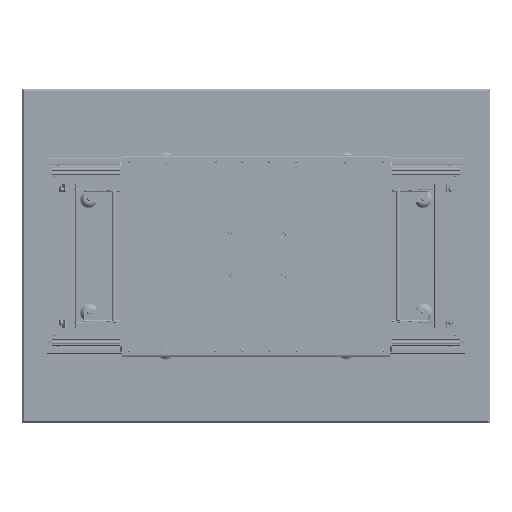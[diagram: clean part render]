
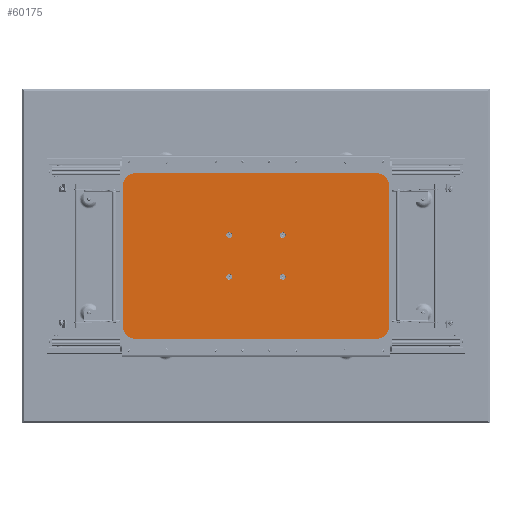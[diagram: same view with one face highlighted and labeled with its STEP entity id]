
A CAD part, front view. The second image highlights one B-rep face of the part: STEP entity #60175.
In plain terms, the highlighted planar face has unit normal (0, -1, 0).
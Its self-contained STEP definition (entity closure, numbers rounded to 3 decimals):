
#494 = ORIENTED_EDGE ( 'NONE', *, *, #43207, .T. ) ;
#1311 = DIRECTION ( 'NONE',  ( 0., 0., -1. ) ) ;
#1543 = ORIENTED_EDGE ( 'NONE', *, *, #27678, .F. ) ;
#2106 = CARTESIAN_POINT ( 'NONE',  ( 362.5, 0., -212.5 ) ) ;
#2453 = DIRECTION ( 'NONE',  ( 0., 0., 1. ) ) ;
#2471 = VERTEX_POINT ( 'NONE', #21394 ) ;
#2791 = DIRECTION ( 'NONE',  ( 0., -1., 0. ) ) ;
#4539 = EDGE_CURVE ( 'NONE', #6579, #50818, #21744, .T. ) ;
#4633 = AXIS2_PLACEMENT_3D ( 'NONE', #9415, #38254, #61198 ) ;
#4833 = ORIENTED_EDGE ( 'NONE', *, *, #10061, .F. ) ;
#5403 = EDGE_CURVE ( 'NONE', #71874, #70016, #17973, .T. ) ;
#6391 = ORIENTED_EDGE ( 'NONE', *, *, #32207, .T. ) ;
#6579 = VERTEX_POINT ( 'NONE', #16060 ) ;
#7168 = CARTESIAN_POINT ( 'NONE',  ( 397.5, 0., -247.5 ) ) ;
#8785 = AXIS2_PLACEMENT_3D ( 'NONE', #43391, #65981, #37865 ) ;
#9415 = CARTESIAN_POINT ( 'NONE',  ( -80., 0., -62.5 ) ) ;
#10061 = EDGE_CURVE ( 'NONE', #33927, #19993, #64924, .T. ) ;
#10460 = CARTESIAN_POINT ( 'NONE',  ( 80., 0., 53.85 ) ) ;
#11930 = DIRECTION ( 'NONE',  ( 0., 0., 1. ) ) ;
#12033 = DIRECTION ( 'NONE',  ( 0., -1., 0. ) ) ;
#12503 = VERTEX_POINT ( 'NONE', #21781 ) ;
#12919 = FACE_BOUND ( 'NONE', #16339, .T. ) ;
#12970 = VERTEX_POINT ( 'NONE', #70108 ) ;
#14174 = CIRCLE ( 'NONE', #37914, 35. ) ;
#14717 = CIRCLE ( 'NONE', #54875, 8.65 ) ;
#14929 = ORIENTED_EDGE ( 'NONE', *, *, #47578, .F. ) ;
#14969 = AXIS2_PLACEMENT_3D ( 'NONE', #2106, #47234, #64279 ) ;
#15047 = EDGE_CURVE ( 'NONE', #22058, #47762, #50971, .T. ) ;
#16060 = CARTESIAN_POINT ( 'NONE',  ( -362.5, 0., 247.5 ) ) ;
#16339 = EDGE_LOOP ( 'NONE', ( #49925, #14929 ) ) ;
#16633 = ORIENTED_EDGE ( 'NONE', *, *, #18231, .F. ) ;
#17141 = CARTESIAN_POINT ( 'NONE',  ( -80., 0., 53.85 ) ) ;
#17973 = CIRCLE ( 'NONE', #53366, 8.65 ) ;
#18104 = CIRCLE ( 'NONE', #35737, 8.65 ) ;
#18231 = EDGE_CURVE ( 'NONE', #70016, #71874, #18104, .T. ) ;
#19993 = VERTEX_POINT ( 'NONE', #57801 ) ;
#20838 = DIRECTION ( 'NONE',  ( 0., 0., -1. ) ) ;
#21394 = CARTESIAN_POINT ( 'NONE',  ( -80., 0., 71.15 ) ) ;
#21744 = LINE ( 'NONE', #22833, #60267 ) ;
#21781 = CARTESIAN_POINT ( 'NONE',  ( 362.5, 0., -247.5 ) ) ;
#22058 = VERTEX_POINT ( 'NONE', #58830 ) ;
#22396 = CARTESIAN_POINT ( 'NONE',  ( -80., 0., 62.5 ) ) ;
#22833 = CARTESIAN_POINT ( 'NONE',  ( -397.5, 0., 247.5 ) ) ;
#23190 = CIRCLE ( 'NONE', #14969, 35. ) ;
#24001 = FACE_BOUND ( 'NONE', #27637, .T. ) ;
#24320 = DIRECTION ( 'NONE',  ( 0., -1., 0. ) ) ;
#25525 = CARTESIAN_POINT ( 'NONE',  ( 80., 0., -62.5 ) ) ;
#25913 = VECTOR ( 'NONE', #31397, 1000. ) ;
#26126 = VERTEX_POINT ( 'NONE', #34303 ) ;
#26132 = EDGE_CURVE ( 'NONE', #38878, #2471, #14717, .T. ) ;
#26551 = CIRCLE ( 'NONE', #8785, 8.65 ) ;
#26739 = CARTESIAN_POINT ( 'NONE',  ( 80., 0., 71.15 ) ) ;
#27329 = DIRECTION ( 'NONE',  ( 1., 0., 0. ) ) ;
#27340 = AXIS2_PLACEMENT_3D ( 'NONE', #22396, #44944, #67538 ) ;
#27637 = EDGE_LOOP ( 'NONE', ( #31275, #41512 ) ) ;
#27678 = EDGE_CURVE ( 'NONE', #26126, #12970, #57839, .T. ) ;
#27752 = ORIENTED_EDGE ( 'NONE', *, *, #71979, .T. ) ;
#29266 = CARTESIAN_POINT ( 'NONE',  ( -362.5, 0., -247.5 ) ) ;
#29556 = DIRECTION ( 'NONE',  ( 0., 1., 0. ) ) ;
#30275 = CIRCLE ( 'NONE', #45605, 8.65 ) ;
#30745 = VERTEX_POINT ( 'NONE', #38223 ) ;
#31275 = ORIENTED_EDGE ( 'NONE', *, *, #26132, .F. ) ;
#31293 = VECTOR ( 'NONE', #50514, 1000. ) ;
#31397 = DIRECTION ( 'NONE',  ( -1., 0., 0. ) ) ;
#31767 = CARTESIAN_POINT ( 'NONE',  ( -397.5, 0., -247.5 ) ) ;
#32207 = EDGE_CURVE ( 'NONE', #6579, #72557, #57517, .T. ) ;
#32600 = AXIS2_PLACEMENT_3D ( 'NONE', #57987, #24320, #2453 ) ;
#33321 = DIRECTION ( 'NONE',  ( 0., 0., 1. ) ) ;
#33927 = VERTEX_POINT ( 'NONE', #71372 ) ;
#34199 = EDGE_CURVE ( 'NONE', #12503, #12970, #23190, .T. ) ;
#34303 = CARTESIAN_POINT ( 'NONE',  ( 397.5, 0., 212.5 ) ) ;
#35737 = AXIS2_PLACEMENT_3D ( 'NONE', #53494, #2791, #47921 ) ;
#36652 = CARTESIAN_POINT ( 'NONE',  ( 362.5, 0., 247.5 ) ) ;
#36980 = DIRECTION ( 'NONE',  ( 0., -1., 0. ) ) ;
#37179 = EDGE_LOOP ( 'NONE', ( #39520, #60679, #1543, #494, #57295, #6391, #63958, #27752 ) ) ;
#37709 = EDGE_CURVE ( 'NONE', #12503, #57414, #52145, .T. ) ;
#37865 = DIRECTION ( 'NONE',  ( 0., 0., -1. ) ) ;
#37914 = AXIS2_PLACEMENT_3D ( 'NONE', #59133, #52472, #11930 ) ;
#38223 = CARTESIAN_POINT ( 'NONE',  ( -397.5, 0., -212.5 ) ) ;
#38254 = DIRECTION ( 'NONE',  ( 0., -1., 0. ) ) ;
#38770 = EDGE_CURVE ( 'NONE', #19993, #33927, #26551, .T. ) ;
#38878 = VERTEX_POINT ( 'NONE', #17141 ) ;
#39071 = CIRCLE ( 'NONE', #27340, 8.65 ) ;
#39520 = ORIENTED_EDGE ( 'NONE', *, *, #37709, .F. ) ;
#39714 = EDGE_CURVE ( 'NONE', #30745, #72557, #45666, .T. ) ;
#41354 = DIRECTION ( 'NONE',  ( 0., 0., 1. ) ) ;
#41512 = ORIENTED_EDGE ( 'NONE', *, *, #63071, .F. ) ;
#41968 = VECTOR ( 'NONE', #56101, 1000. ) ;
#43207 = EDGE_CURVE ( 'NONE', #26126, #50818, #68042, .T. ) ;
#43391 = CARTESIAN_POINT ( 'NONE',  ( -80., 0., -62.5 ) ) ;
#44944 = DIRECTION ( 'NONE',  ( 0., -1., 0. ) ) ;
#45372 = CARTESIAN_POINT ( 'NONE',  ( -80., 0., 62.5 ) ) ;
#45605 = AXIS2_PLACEMENT_3D ( 'NONE', #67870, #12033, #46361 ) ;
#45666 = LINE ( 'NONE', #50882, #31293 ) ;
#46361 = DIRECTION ( 'NONE',  ( 0., 0., -1. ) ) ;
#47234 = DIRECTION ( 'NONE',  ( 0., -1., 0. ) ) ;
#47578 = EDGE_CURVE ( 'NONE', #47762, #22058, #30275, .T. ) ;
#47762 = VERTEX_POINT ( 'NONE', #64134 ) ;
#47921 = DIRECTION ( 'NONE',  ( 0., 0., -1. ) ) ;
#48765 = DIRECTION ( 'NONE',  ( 0., 0., -1. ) ) ;
#48863 = DIRECTION ( 'NONE',  ( 0., -1., 0. ) ) ;
#49033 = ORIENTED_EDGE ( 'NONE', *, *, #38770, .F. ) ;
#49655 = CARTESIAN_POINT ( 'NONE',  ( 80., 0., 62.5 ) ) ;
#49925 = ORIENTED_EDGE ( 'NONE', *, *, #15047, .F. ) ;
#50514 = DIRECTION ( 'NONE',  ( 0., 0., 1. ) ) ;
#50818 = VERTEX_POINT ( 'NONE', #36652 ) ;
#50860 = EDGE_LOOP ( 'NONE', ( #59645, #16633 ) ) ;
#50882 = CARTESIAN_POINT ( 'NONE',  ( -397.5, 0., -247.5 ) ) ;
#50971 = CIRCLE ( 'NONE', #67508, 8.65 ) ;
#51303 = DIRECTION ( 'NONE',  ( 0., -1., 0. ) ) ;
#52145 = LINE ( 'NONE', #31767, #25913 ) ;
#52472 = DIRECTION ( 'NONE',  ( 0., -1., 0. ) ) ;
#53366 = AXIS2_PLACEMENT_3D ( 'NONE', #49655, #67062, #20838 ) ;
#53409 = EDGE_LOOP ( 'NONE', ( #49033, #4833 ) ) ;
#53494 = CARTESIAN_POINT ( 'NONE',  ( 80., 0., 62.5 ) ) ;
#54875 = AXIS2_PLACEMENT_3D ( 'NONE', #45372, #51303, #1311 ) ;
#56101 = DIRECTION ( 'NONE',  ( 0., 0., -1. ) ) ;
#57295 = ORIENTED_EDGE ( 'NONE', *, *, #4539, .F. ) ;
#57414 = VERTEX_POINT ( 'NONE', #29266 ) ;
#57517 = CIRCLE ( 'NONE', #63457, 35. ) ;
#57801 = CARTESIAN_POINT ( 'NONE',  ( -80., 0., -71.15 ) ) ;
#57839 = LINE ( 'NONE', #7168, #41968 ) ;
#57987 = CARTESIAN_POINT ( 'NONE',  ( 362.5, 0., 212.5 ) ) ;
#58392 = FACE_OUTER_BOUND ( 'NONE', #37179, .T. ) ;
#58830 = CARTESIAN_POINT ( 'NONE',  ( 80., 0., -71.15 ) ) ;
#59133 = CARTESIAN_POINT ( 'NONE',  ( -362.5, 0., -212.5 ) ) ;
#59645 = ORIENTED_EDGE ( 'NONE', *, *, #5403, .F. ) ;
#60175 = ADVANCED_FACE ( 'NONE', ( #24001, #69489, #12919, #69118, #58392 ), #63938, .F. ) ;
#60267 = VECTOR ( 'NONE', #27329, 1000. ) ;
#60679 = ORIENTED_EDGE ( 'NONE', *, *, #34199, .T. ) ;
#61198 = DIRECTION ( 'NONE',  ( 0., 0., -1. ) ) ;
#62741 = AXIS2_PLACEMENT_3D ( 'NONE', #68760, #29556, #41354 ) ;
#63071 = EDGE_CURVE ( 'NONE', #2471, #38878, #39071, .T. ) ;
#63457 = AXIS2_PLACEMENT_3D ( 'NONE', #71448, #48863, #33321 ) ;
#63938 = PLANE ( 'NONE',  #62741 ) ;
#63958 = ORIENTED_EDGE ( 'NONE', *, *, #39714, .F. ) ;
#64134 = CARTESIAN_POINT ( 'NONE',  ( 80., 0., -53.85 ) ) ;
#64279 = DIRECTION ( 'NONE',  ( 0., 0., 1. ) ) ;
#64924 = CIRCLE ( 'NONE', #4633, 8.65 ) ;
#65315 = CARTESIAN_POINT ( 'NONE',  ( -397.5, 0., 212.5 ) ) ;
#65981 = DIRECTION ( 'NONE',  ( 0., -1., 0. ) ) ;
#67062 = DIRECTION ( 'NONE',  ( 0., -1., 0. ) ) ;
#67508 = AXIS2_PLACEMENT_3D ( 'NONE', #25525, #36980, #48765 ) ;
#67538 = DIRECTION ( 'NONE',  ( 0., 0., -1. ) ) ;
#67870 = CARTESIAN_POINT ( 'NONE',  ( 80., 0., -62.5 ) ) ;
#68042 = CIRCLE ( 'NONE', #32600, 35. ) ;
#68760 = CARTESIAN_POINT ( 'NONE',  ( 0., 0., 0. ) ) ;
#69118 = FACE_BOUND ( 'NONE', #53409, .T. ) ;
#69489 = FACE_BOUND ( 'NONE', #50860, .T. ) ;
#70016 = VERTEX_POINT ( 'NONE', #26739 ) ;
#70108 = CARTESIAN_POINT ( 'NONE',  ( 397.5, 0., -212.5 ) ) ;
#71372 = CARTESIAN_POINT ( 'NONE',  ( -80., 0., -53.85 ) ) ;
#71448 = CARTESIAN_POINT ( 'NONE',  ( -362.5, 0., 212.5 ) ) ;
#71874 = VERTEX_POINT ( 'NONE', #10460 ) ;
#71979 = EDGE_CURVE ( 'NONE', #30745, #57414, #14174, .T. ) ;
#72557 = VERTEX_POINT ( 'NONE', #65315 ) ;
